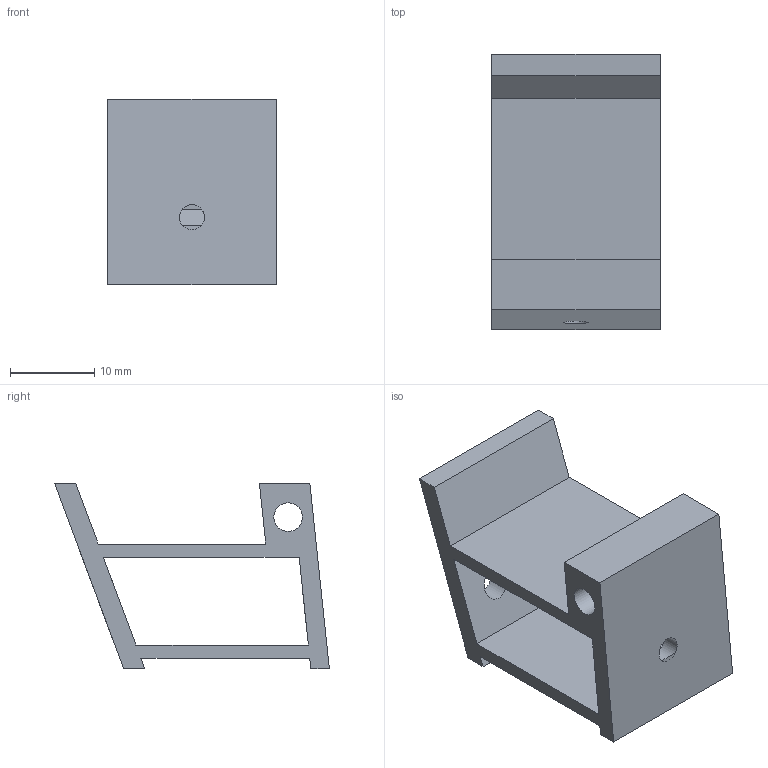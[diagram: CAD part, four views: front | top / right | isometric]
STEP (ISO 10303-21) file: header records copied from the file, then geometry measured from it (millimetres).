
FILE_DESCRIPTION(('Open CASCADE Model'),'2;1');
FILE_NAME('Open CASCADE Shape Model','2026-10-17T22:10:43',('Author'),( 'Open CASCADE'),'Open CASCADE STEP processor 7.9','Open CASCADE 7.9' ,'Unknown');
FILE_SCHEMA(('AUTOMOTIVE_DESIGN { 1 0 10303 214 1 1 1 1 }'));
Length unit declared in the file: millimetre
Products named in the file (1): Open CASCADE STEP translator 7.9 30
Bounding box: 20 x 32.64 x 22 mm (x, y, z)
Volume: 3773.3 mm3; surface area: 4251.6 mm2
Topology: 1 solids, 1 shells, 24 faces, 66 edges, 44 vertices
Faces by surface type: plane 20, cylinder 4
Full cylindrical faces by diameter (mm): 3 x1, 3.4 x3
Entity records: 1760 total; most frequent: CARTESIAN_POINT 423, DIRECTION 242, LINE 166, VECTOR 166, ORIENTED_EDGE 132, PCURVE 132, DEFINITIONAL_REPRESENTATION 132, EDGE_CURVE 66
